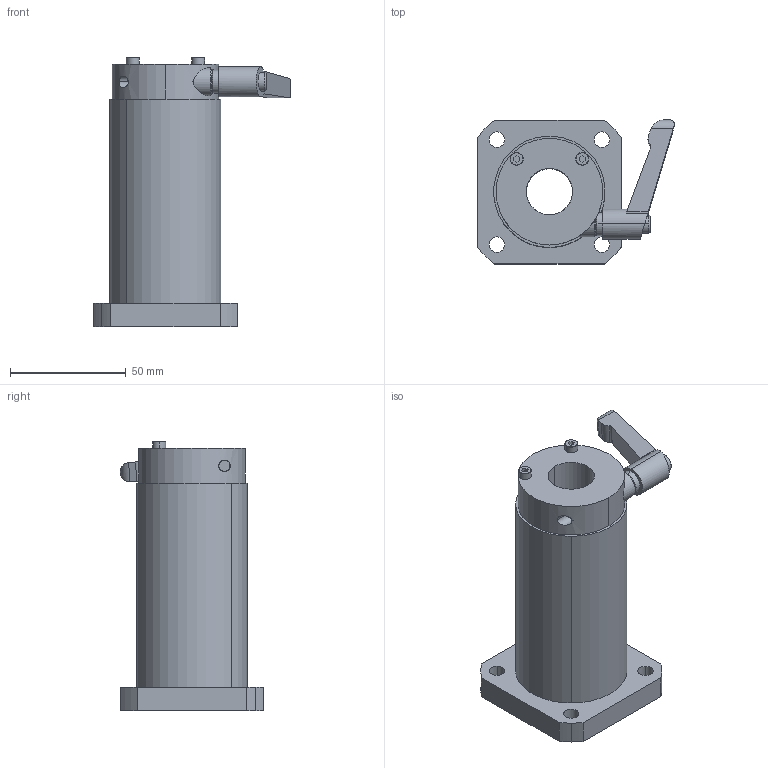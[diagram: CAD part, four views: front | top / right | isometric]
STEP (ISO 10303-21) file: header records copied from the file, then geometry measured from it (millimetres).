
FILE_DESCRIPTION (( 'STEP AP214' ), '1' );
FILE_NAME ('LFWK20-C.STEP', '2023-06-27T01:58:58', ( '' ), ( '' ), 'SwSTEP 2.0', 'SolidWorks 2019', '' );
FILE_SCHEMA (( 'AUTOMOTIVE_DESIGN' ));
Length unit declared in the file: millimetre
Products named in the file (3): LFWK20-C; LFWK20; “ÁSCK2015CO-S3.4
Assembly tree (2 placements, depth 2):
  LFWK20-C
    LFWK20
    “ÁSCK2015CO-S3.4
Bounding box: 84.9 x 62 x 116 mm (x, y, z)
Volume: 183210.8 mm3; surface area: 43876 mm2
Topology: 3 solids, 8 shells, 196 faces, 485 edges, 308 vertices
Faces by surface type: cylinder 79, plane 59, bspline 39, cone 11, torus 8
Entity records: 8607 total; most frequent: CARTESIAN_POINT 1889, DIRECTION 1018, ORIENTED_EDGE 970, EDGE_CURVE 485, AXIS2_PLACEMENT_3D 415, VERTEX_POINT 308, CIRCLE 253, EDGE_LOOP 237
